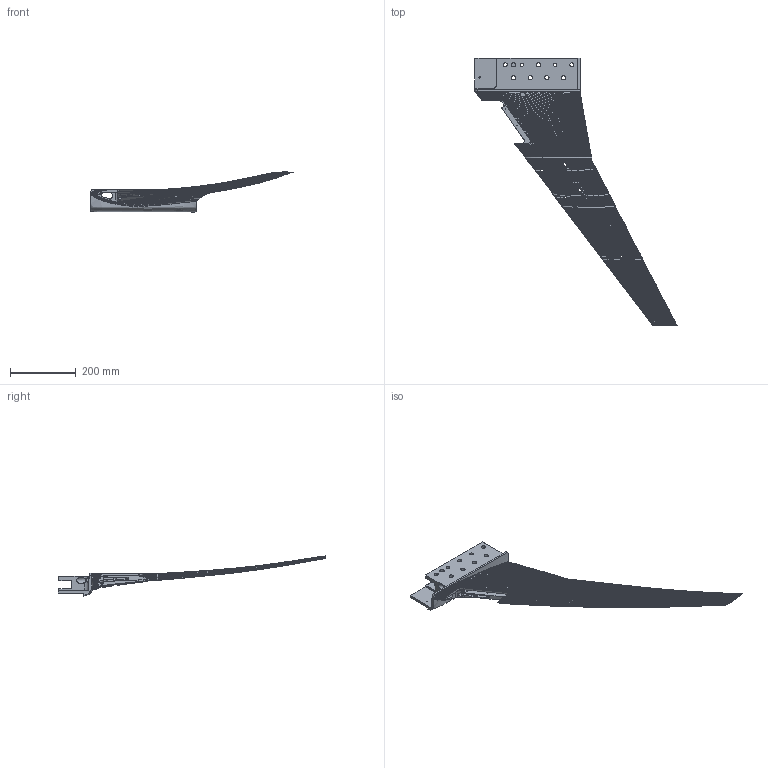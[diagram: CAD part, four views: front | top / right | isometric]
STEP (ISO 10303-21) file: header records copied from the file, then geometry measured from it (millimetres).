
FILE_DESCRIPTION(('CATIA V5 STEP Exchange'),'2;1');
FILE_NAME('Z:\CAD_Data\parts\A Directory with TR job numbers\TR004.1 CRM MODEL\Engineering Models & Dwgs\CAD Models\STP Files\LH WING-AS BUILT MODEL SCALE.stp','2011-08-11T22:46:06+00:00',('none'),('none'),'CATIA Version 5 Release 19 GA (IN-10)','CATIA V5 STEP AP203','none');
FILE_SCHEMA(('CONFIG_CONTROL_DESIGN'));
Products named in the file (1): LH WING-AS BUILT
Bounding box: 615.98 x 815.73 x 121.99 mm (x, y, z)
Volume: 2548167.9 mm3; surface area: 427131.4 mm2
Topology: 1 solids, 1 shells, 11394 faces, 28143 edges, 16479 vertices
Faces by surface type: bspline 9414, cylinder 1003, plane 545, cone 289, sphere 60, extrusion 47, torus 36
Entity records: 620942 total; most frequent: CARTESIAN_POINT 436464, ORIENTED_EDGE 56110, EDGE_CURVE 28055, B_SPLINE_CURVE_WITH_KNOTS 25012, VERTEX_POINT 16478, EDGE_LOOP 11607, ADVANCED_FACE 11394, FACE_OUTER_BOUND 11394
